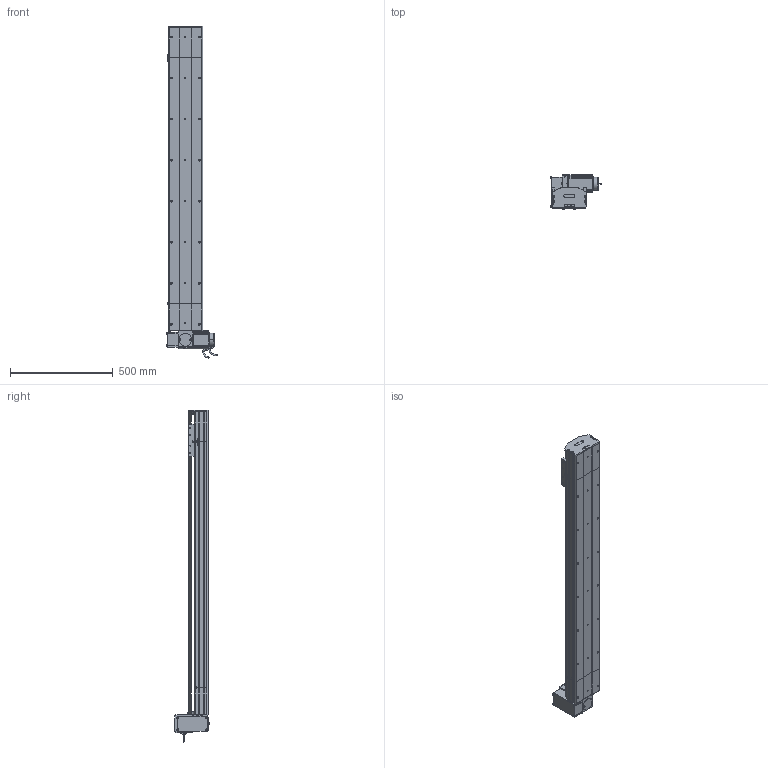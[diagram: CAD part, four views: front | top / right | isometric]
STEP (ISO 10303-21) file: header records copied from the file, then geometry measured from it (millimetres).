
FILE_DESCRIPTION (( 'STEP AP214' ), '1' );
FILE_NAME ('D17 TBH RT S1200.STEP', '2010-06-30T07:55:49', ( 'Christophe Gaillard' ), ( 'SGA' ), 'SwSTEP 2.0', 'SolidWorks 2010', '' );
FILE_SCHEMA (( 'AUTOMOTIVE_DESIGN' ));
Length unit declared in the file: millimetre
Products named in the file (40): Conecteur2_Default; vis M5 L8 90°_Default; couvercle D17B_Default; Couroie tail D17B_Default; poulie tail_Default; plaque de  bout tail D17B_Default; Rail D17B; tete d''axe poulie D17B; corpl tail D17B_Default; Tail D17B_Default; Renvoi RT_Default; cache arbre D17_Default; Conecteur_Default; Vis M5 L16-2_Default; vis M5 L16_Default; Plaque racord D17_Default; vis M5 L70_Default; vis M5 L12_Default; guide D17; Chariot D17; chariot D17S_Default; vis M5 L25_Default; Couroie+ rail D17 Course 200 ; course 1200 D17B_Default; D17 TBH RT S1200; Head RT D17B_Default; couvercle D17B course L1200_Default; corp D17B 1200_Default; plaque de  bout head D17B RT_Default; couvercle D17B head_Default; corpl head D17 _Default; vis M5 L5_Default; cache D17_Default; Arbre+rail head D17B; Moteur motionking 90BLDC125A-640; couroie head D17_Default; poulie head_Default; codeur 90BLDC125-640; corps 90BLDC125A-640; avant 90BLDC125A-640
Assembly tree (70 placements, depth 4):
  D17 TBH RT S1200
    chariot D17S_Default
      guide D17  x2
      vis M5 L12_Default  x4
      Chariot D17
    course 1200 D17B_Default
      Couroie+ rail D17 Course 200 
      corp D17B 1200_Default
      couvercle D17B course L1200_Default
    Head RT D17B_Default
      vis M5 L16_Default  x2
      vis M5 L70_Default  x4
      vis M5 L12_Default  x8
      Moteur motionking 90BLDC125A-640
        Conecteur2_Default
        Conecteur_Default
        corps 90BLDC125A-640
        avant 90BLDC125A-640
        codeur 90BLDC125-640
      vis M5 L25_Default  x2
      Arbre+rail head D17B
      corpl head D17 _Default
      Plaque racord D17_Default
      poulie head_Default
      vis M5 L5_Default  x4
      Vis M5 L16-2_Default  x4
      Renvoi RT_Default
      cache D17_Default  x2
      cache arbre D17_Default
      couvercle D17B head_Default
      plaque de  bout head D17B RT_Default
      couroie head D17_Default
    Tail D17B_Default
      vis M5 L12_Default  x4
      tete d''axe poulie D17B
      vis M5 L25_Default  x2
      plaque de  bout tail D17B_Default
      poulie tail_Default
      Couroie tail D17B_Default
      corpl tail D17B_Default
      vis M5 L8 90°_Default  x2
      couvercle D17B_Default
      Rail D17B
Bounding box: 245.2 x 166.15 x 1617.95 mm (x, y, z)
Volume: 10150009 mm3; surface area: 2848560.9 mm2
Topology: 94 solids, 94 shells, 2665 faces, 6689 edges, 4306 vertices
Faces by surface type: plane 1607, cylinder 745, bspline 136, cone 88, torus 85, sphere 4
Entity records: 83256 total; most frequent: CARTESIAN_POINT 24685, ORIENTED_EDGE 10150, DIRECTION 9644, EDGE_CURVE 5075, LINE 3406, VECTOR 3406, VERTEX_POINT 3330, AXIS2_PLACEMENT_3D 3119
